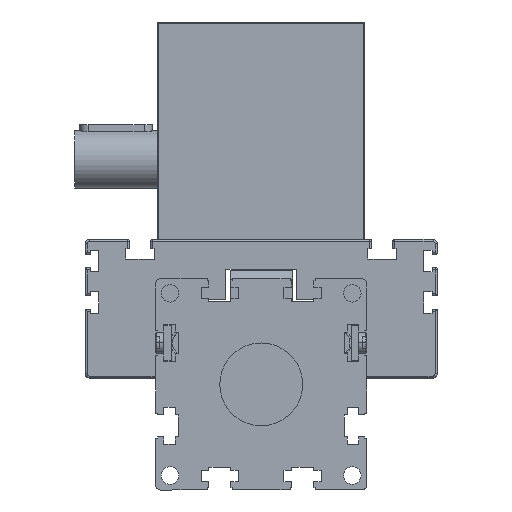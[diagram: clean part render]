
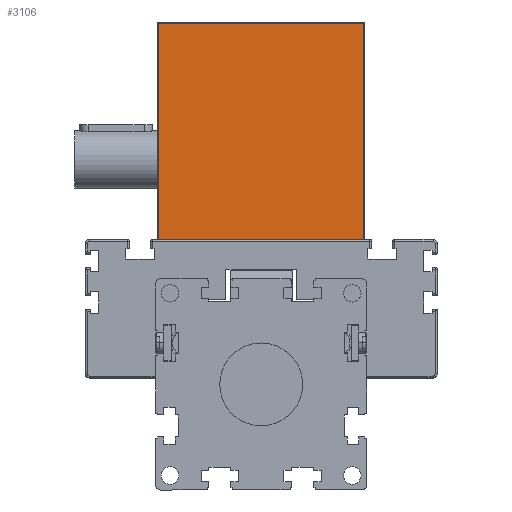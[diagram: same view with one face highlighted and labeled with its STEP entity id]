
A CAD part, front view. The second image highlights one B-rep face of the part: STEP entity #3106.
In plain terms, the highlighted planar face has unit normal (0, -1, 0) as drawn and (1, 0, 0) by its records, which use the part's own axes.
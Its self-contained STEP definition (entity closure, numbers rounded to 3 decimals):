
#1291 = AXIS2_PLACEMENT_3D ( 'NONE', #10666, #26700, #5297 ) ;
#1632 = EDGE_CURVE ( 'NONE', #13854, #17061, #25305, .T. ) ;
#2932 = VECTOR ( 'NONE', #9331, 1000. ) ;
#3106 = ADVANCED_FACE ( 'NONE', ( #7978 ), #20719, .T. ) ;
#5297 = DIRECTION ( 'NONE',  ( 0., 0., -1. ) ) ;
#5872 = EDGE_CURVE ( 'NONE', #23274, #29996, #17684, .T. ) ;
#6524 = ORIENTED_EDGE ( 'NONE', *, *, #1632, .T. ) ;
#7978 = FACE_OUTER_BOUND ( 'NONE', #24941, .T. ) ;
#9320 = VECTOR ( 'NONE', #18629, 1000. ) ;
#9331 = DIRECTION ( 'NONE',  ( 0., 0., -1. ) ) ;
#9641 = CARTESIAN_POINT ( 'NONE',  ( 85., -50., 0. ) ) ;
#10230 = DIRECTION ( 'NONE',  ( 0., -1., 0. ) ) ;
#10666 = CARTESIAN_POINT ( 'NONE',  ( 85., -50., 0. ) ) ;
#11699 = ORIENTED_EDGE ( 'NONE', *, *, #5872, .T. ) ;
#13309 = VECTOR ( 'NONE', #25211, 1000. ) ;
#13854 = VERTEX_POINT ( 'NONE', #30640 ) ;
#14206 = CARTESIAN_POINT ( 'NONE',  ( 85., -49.5, 0. ) ) ;
#16446 = CARTESIAN_POINT ( 'NONE',  ( 85., -49.5, 104.5 ) ) ;
#17061 = VERTEX_POINT ( 'NONE', #16446 ) ;
#17684 = LINE ( 'NONE', #9641, #13309 ) ;
#18629 = DIRECTION ( 'NONE',  ( 0., 0., 1. ) ) ;
#20063 = ORIENTED_EDGE ( 'NONE', *, *, #20181, .T. ) ;
#20181 = EDGE_CURVE ( 'NONE', #17061, #23274, #26928, .T. ) ;
#20719 = PLANE ( 'NONE',  #1291 ) ;
#21138 = CARTESIAN_POINT ( 'NONE',  ( 85., 49.5, 105. ) ) ;
#22162 = CARTESIAN_POINT ( 'NONE',  ( 85., 49.5, 0. ) ) ;
#23161 = VECTOR ( 'NONE', #10230, 1000. ) ;
#23274 = VERTEX_POINT ( 'NONE', #24092 ) ;
#24092 = CARTESIAN_POINT ( 'NONE',  ( 85., -49.5, 0. ) ) ;
#24102 = EDGE_CURVE ( 'NONE', #29996, #13854, #26313, .T. ) ;
#24941 = EDGE_LOOP ( 'NONE', ( #11699, #26856, #6524, #20063 ) ) ;
#25211 = DIRECTION ( 'NONE',  ( 0., 1., 0. ) ) ;
#25305 = LINE ( 'NONE', #25795, #23161 ) ;
#25795 = CARTESIAN_POINT ( 'NONE',  ( 85., -50., 104.5 ) ) ;
#26313 = LINE ( 'NONE', #21138, #9320 ) ;
#26700 = DIRECTION ( 'NONE',  ( 1., 0., 0. ) ) ;
#26856 = ORIENTED_EDGE ( 'NONE', *, *, #24102, .T. ) ;
#26928 = LINE ( 'NONE', #14206, #2932 ) ;
#29996 = VERTEX_POINT ( 'NONE', #22162 ) ;
#30640 = CARTESIAN_POINT ( 'NONE',  ( 85., 49.5, 104.5 ) ) ;
